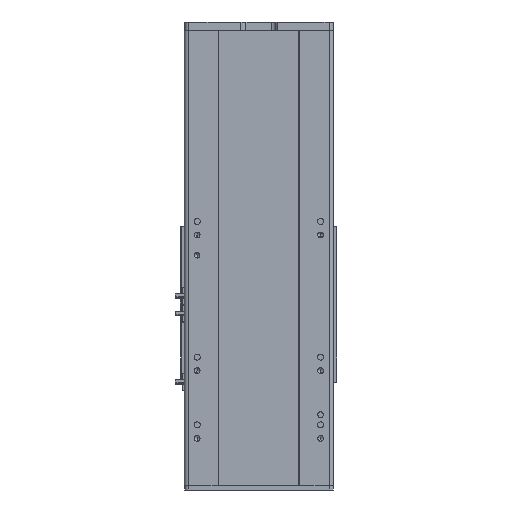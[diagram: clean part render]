
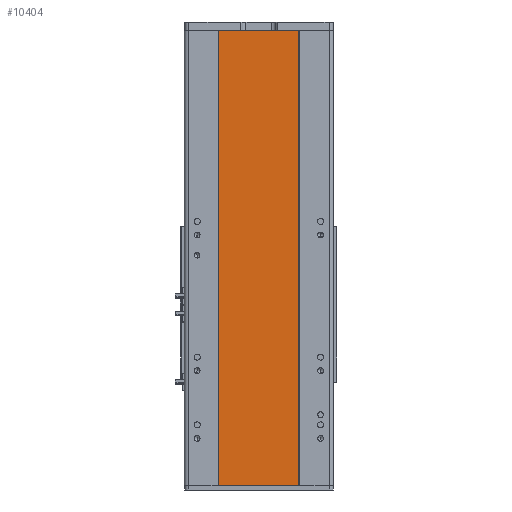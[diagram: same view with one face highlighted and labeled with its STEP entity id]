
A CAD part, front view. The second image highlights one B-rep face of the part: STEP entity #10404.
In plain terms, the highlighted planar face has unit normal (0, -1, 0).
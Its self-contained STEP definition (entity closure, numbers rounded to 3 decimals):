
#226 = VERTEX_POINT ( 'NONE', #22943 ) ;
#607 = CARTESIAN_POINT ( 'NONE',  ( -59., 1., -335.5 ) ) ;
#2583 = FACE_OUTER_BOUND ( 'NONE', #30825, .T. ) ;
#6727 = LINE ( 'NONE', #28642, #14130 ) ;
#8653 = DIRECTION ( 'NONE',  ( -1., 0., 0. ) ) ;
#8785 = VERTEX_POINT ( 'NONE', #21805 ) ;
#9863 = ORIENTED_EDGE ( 'NONE', *, *, #12636, .T. ) ;
#10404 = ADVANCED_FACE ( 'NONE', ( #2583 ), #33399, .F. ) ;
#10675 = DIRECTION ( 'NONE',  ( 1., 0., 0. ) ) ;
#12636 = EDGE_CURVE ( 'NONE', #21153, #23087, #6727, .T. ) ;
#13453 = CARTESIAN_POINT ( 'NONE',  ( -59., 1., 335.5 ) ) ;
#14130 = VECTOR ( 'NONE', #31761, 1000. ) ;
#14575 = VECTOR ( 'NONE', #10675, 1000. ) ;
#15253 = VECTOR ( 'NONE', #29400, 1000. ) ;
#16868 = CARTESIAN_POINT ( 'NONE',  ( -59., 1., 335.5 ) ) ;
#17312 = DIRECTION ( 'NONE',  ( 1., 0., 0. ) ) ;
#19884 = DIRECTION ( 'NONE',  ( 0., 1., 0. ) ) ;
#20258 = CARTESIAN_POINT ( 'NONE',  ( -59., 1., 335.5 ) ) ;
#20791 = CARTESIAN_POINT ( 'NONE',  ( -59., 1., -335.5 ) ) ;
#21153 = VERTEX_POINT ( 'NONE', #20258 ) ;
#21805 = CARTESIAN_POINT ( 'NONE',  ( 59., 1., -335.5 ) ) ;
#22943 = CARTESIAN_POINT ( 'NONE',  ( 59., 1., 335.5 ) ) ;
#23087 = VERTEX_POINT ( 'NONE', #20791 ) ;
#24887 = VECTOR ( 'NONE', #17312, 1000. ) ;
#28642 = CARTESIAN_POINT ( 'NONE',  ( -59., 1., 335.5 ) ) ;
#29247 = LINE ( 'NONE', #13453, #14575 ) ;
#29400 = DIRECTION ( 'NONE',  ( 0., 0., -1. ) ) ;
#29612 = CARTESIAN_POINT ( 'NONE',  ( 59., 1., 335.5 ) ) ;
#30769 = ORIENTED_EDGE ( 'NONE', *, *, #33153, .F. ) ;
#30825 = EDGE_LOOP ( 'NONE', ( #31061, #32923, #30769, #9863 ) ) ;
#30848 = LINE ( 'NONE', #29612, #15253 ) ;
#30943 = LINE ( 'NONE', #607, #24887 ) ;
#31061 = ORIENTED_EDGE ( 'NONE', *, *, #33476, .T. ) ;
#31761 = DIRECTION ( 'NONE',  ( 0., 0., -1. ) ) ;
#32103 = AXIS2_PLACEMENT_3D ( 'NONE', #16868, #19884, #8653 ) ;
#32923 = ORIENTED_EDGE ( 'NONE', *, *, #35759, .F. ) ;
#33153 = EDGE_CURVE ( 'NONE', #21153, #226, #29247, .T. ) ;
#33399 = PLANE ( 'NONE',  #32103 ) ;
#33476 = EDGE_CURVE ( 'NONE', #23087, #8785, #30943, .T. ) ;
#35759 = EDGE_CURVE ( 'NONE', #226, #8785, #30848, .T. ) ;
